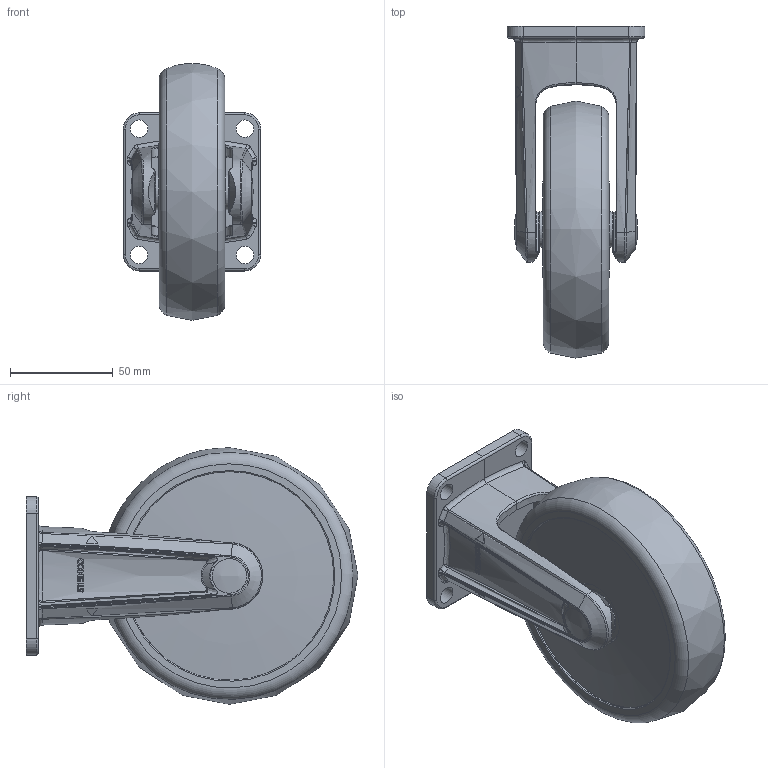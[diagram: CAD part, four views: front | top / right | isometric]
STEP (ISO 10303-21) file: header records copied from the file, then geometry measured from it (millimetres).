
FILE_DESCRIPTION(/* description */ (''),/* implementation_level */ '2;1');
FILE_NAME(/* name */ 'D:\Temp\TP-STEP_files\_inventor_\new_imports\5.J310.NBA0.prt.ipt.step',/* time_stamp */ '2020-11-27T10:36:33+01:00',/* author */ ('alfredS'),/* organization */ (''),/* preprocessor_version */ 'ST-DEVELOPER v18.1',/* originating_system */ 'Autodesk Inventor 2021',/* authorisation */ '');
FILE_SCHEMA (('AUTOMOTIVE_DESIGN { 1 0 10303 214 3 1 1 }'));
Products named in the file (1): 5.J310.NBA0.prt
Bounding box: 67 x 161.5 x 124.9 mm (x, y, z)
Volume: 480886.2 mm3; surface area: 67583.6 mm2
Topology: 2 solids, 2 shells, 345 faces, 859 edges, 538 vertices
Faces by surface type: bspline 159, plane 110, cylinder 54, torus 10, sphere 6, cone 6
Full cylindrical faces by diameter (mm): 8.5 x4, 17.4 x2, 25.36 x2, 32.5 x2, 101.5 x2
Entity records: 34297 total; most frequent: CARTESIAN_POINT 26770, ORIENTED_EDGE 1702, DIRECTION 1119, EDGE_CURVE 851, VERTEX_POINT 538, AXIS2_PLACEMENT_3D 443, EDGE_LOOP 381, B_SPLINE_CURVE_WITH_KNOTS 352
